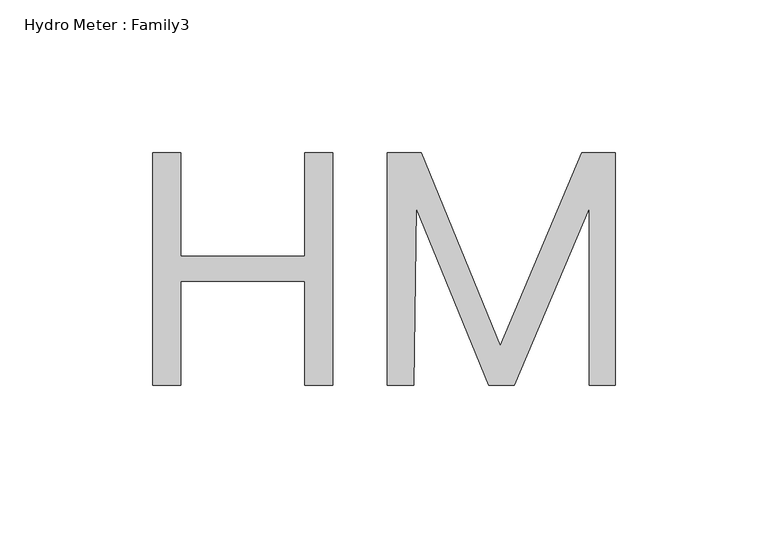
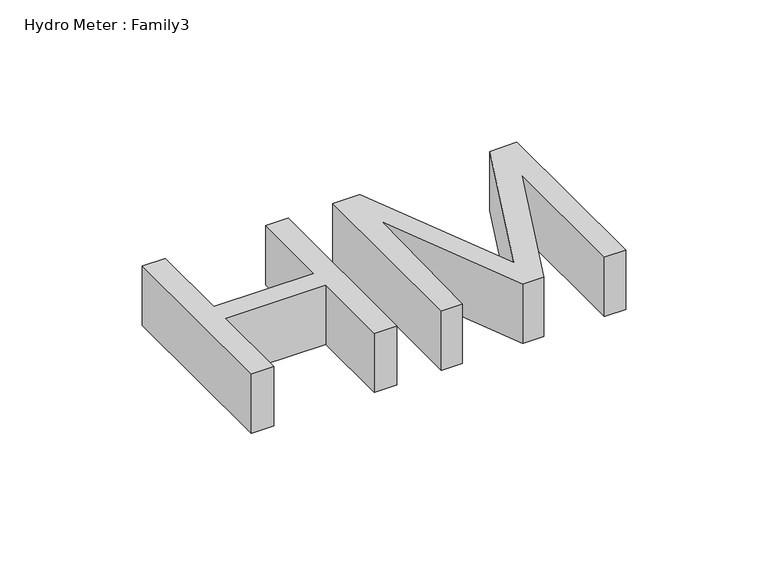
"""IFC4 building model written with IfcOpenShell, lengths in millimetres: proxy geometry, Hydro Meter : Family3."""

from ifc_helpers import new_model, si_unit, origin, origin_with_axes, place, context, project, spatial, polyline, outline, extrude, source, transform, mapped, element, save


def hydro_meter_family3_de04d33e(model_context):
    return source(origin(), model_context, "Body", "SweptSolid", [
        extrude(outline(polyline([(106.6365155, 85.7550829), (106.6365155, 161.9504072), (115.8675307, 161.9504072), (115.8675307, 128.0244538), (156.4997772, 128.0244538), (156.4997772, 161.9504072), (165.711068, 161.9504072), (165.711068, 85.7550829), (156.4997772, 85.7550829), (156.4997772, 119.8388314), (115.8675307, 119.8388314), (115.8675307, 85.7550829), (106.6365155, 85.7550829)])), origin_with_axes(), (0.0, 0.0, 1.0), 25.4),
        extrude(outline(polyline([(183.6405398, 161.9504072), (194.6467503, 161.9504072), (220.5448763, 98.6942837), (247.3305999, 161.9504072), (258.3565347, 161.9504072), (258.3565347, 85.7550829), (249.7172513, 85.7550829), (249.7172513, 143.6461719), (225.1603839, 85.7550829), (216.8169663, 85.7550829), (193.0096258, 143.6461719), (192.2600989, 85.7550829), (183.6405398, 85.7550829), (183.6405398, 161.9504072)])), origin_with_axes(), (0.0, 0.0, 1.0), 25.4),
    ])


if __name__ == "__main__":
    model = new_model("IFC4")
    model_context = context("Model", 3, world=origin())
    ifc_project = project(units=[si_unit("LENGTHUNIT", "METRE", prefix="MILLI")], contexts=[model_context])
    site = spatial("IfcSite", under=ifc_project)
    building = spatial("IfcBuilding", under=site)
    placement = place(None, origin())
    hydro_meter_family3_shape = hydro_meter_family3_de04d33e(model_context)
    element("IfcBuildingElementProxy", 1, Name="Hydro Meter : Family3", ObjectType="Hydro Meter : Family3", at=placement, inside=building, context=model_context, shape_type="MappedRepresentation", body=[
        mapped(hydro_meter_family3_shape, transform((0.0, 0.0, 0.0), x_axis=(1.0, 0.0, 0.0), y_axis=(0.0, 1.0, 0.0), z_axis=(0.0, 0.0, 1.0))),
    ])
    save(model, "model.ifc")
